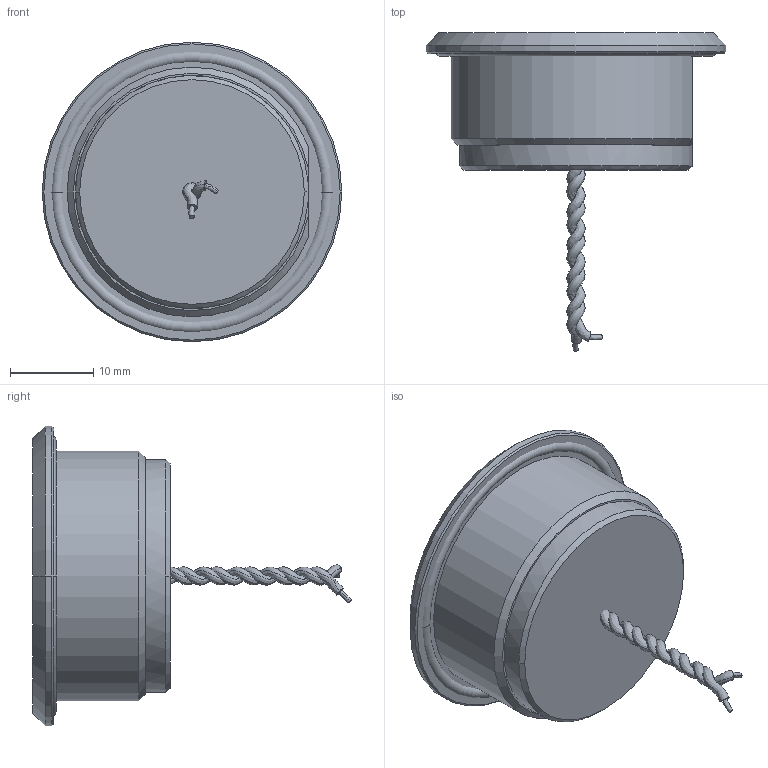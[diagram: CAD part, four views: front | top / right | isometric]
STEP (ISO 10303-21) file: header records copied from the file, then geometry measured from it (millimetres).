
FILE_DESCRIPTION((''),'2;1');
FILE_NAME('PBAM1AF_002','2017-11-17T',('mdamaggio'),(''),'CREO PARAMETRIC BY PTC INC, 2015380','CREO PARAMETRIC BY PTC INC, 2015380','');
FILE_SCHEMA(('CONFIG_CONTROL_DESIGN'));
Length unit declared in the file: millimetre
Products named in the file (1): PBAM1AF_002
Bounding box: 36 x 38.28 x 36 mm (x, y, z)
Surface area: 4705 mm2 (no closed solid volume)
Topology: 0 solids, 8 shells, 32 faces, 73 edges, 48 vertices
Faces by surface type: bspline 10, plane 9, cone 7, cylinder 4, torus 2
Entity records: 12254 total; most frequent: CARTESIAN_POINT 11575, ORIENTED_EDGE 126, DIRECTION 119, EDGE_CURVE 73, AXIS2_PLACEMENT_3D 52, VERTEX_POINT 48, EDGE_LOOP 32, FACE_OUTER_BOUND 32
